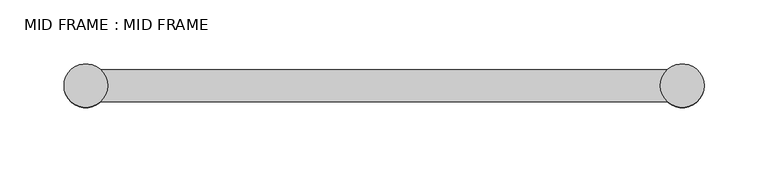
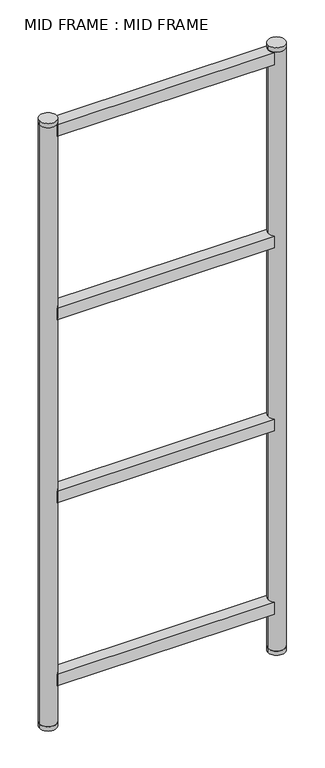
"""IFC4 building model written with IfcOpenShell, lengths in millimetres: furniture geometry, MID FRAME : MID FRAME."""

from ifc_helpers import new_model, si_unit, point, frame, frame_2d, origin, origin_with_axes, place, context, project, spatial, polyline, circle_curve, trimmed, segment, composite_curve, outline, extrude, source, transform, mapped, element, save


def mid_frame_mid_frame_c718d002(model_context):
    return source(origin(), model_context, "Body", "SweptSolid", [
        extrude(outline(composite_curve([segment(trimmed(circle_curve(frame_2d((233.0, 0.0)), 17.0), [point((221.4782814, 12.5))], [point((221.4782814, -12.5))], True, "CARTESIAN"), True, "CONTINUOUS"), segment(polyline([(221.4782814, -12.5), (-221.4782814, -12.5)]), True, "CONTINUOUS"), segment(trimmed(circle_curve(frame_2d((-233.0, 0.0)), 17.0), [point((-221.4782814, -12.5))], [point((-221.4782814, 12.5))], True, "CARTESIAN"), True, "CONTINUOUS"), segment(polyline([(-221.4782814, 12.5), (221.4782814, 12.5)]), True, "CONTINUOUS")], self_intersect=False)), frame((0.0, 0.0, 1274.0), z_axis=(0.0, 0.0, 1.0), x_axis=(1.0, 0.0, 0.0)), (0.0, 0.0, 1.0), 25.0),
        extrude(outline(composite_curve([segment(trimmed(circle_curve(frame_2d((233.0, 0.0)), 17.0), [point((221.4782814, 12.5))], [point((221.4782814, -12.5))], True, "CARTESIAN"), True, "CONTINUOUS"), segment(polyline([(221.4782814, -12.5), (-221.4782814, -12.5)]), True, "CONTINUOUS"), segment(trimmed(circle_curve(frame_2d((-233.0, 0.0)), 17.0), [point((-221.4782814, -12.5))], [point((-221.4782814, 12.5))], True, "CARTESIAN"), True, "CONTINUOUS"), segment(polyline([(-221.4782814, 12.5), (221.4782814, 12.5)]), True, "CONTINUOUS")], self_intersect=False)), frame((0.0, 0.0, 879.0), z_axis=(0.0, 0.0, 1.0), x_axis=(1.0, 0.0, 0.0)), (0.0, 0.0, 1.0), 25.0),
        extrude(outline(composite_curve([segment(trimmed(circle_curve(frame_2d((233.0, 0.0)), 17.0), [point((221.4782814, 12.5))], [point((221.4782814, -12.5))], True, "CARTESIAN"), True, "CONTINUOUS"), segment(polyline([(221.4782814, -12.5), (-221.4782814, -12.5)]), True, "CONTINUOUS"), segment(trimmed(circle_curve(frame_2d((-233.0, 0.0)), 17.0), [point((-221.4782814, -12.5))], [point((-221.4782814, 12.5))], True, "CARTESIAN"), True, "CONTINUOUS"), segment(polyline([(-221.4782814, 12.5), (221.4782814, 12.5)]), True, "CONTINUOUS")], self_intersect=False)), frame((0.0, 0.0, 484.0), z_axis=(0.0, 0.0, 1.0), x_axis=(1.0, 0.0, 0.0)), (0.0, 0.0, 1.0), 25.0),
        extrude(outline(composite_curve([segment(trimmed(circle_curve(frame_2d((233.0, 0.0)), 17.0), [point((221.4782814, 12.5))], [point((221.4782814, -12.5))], True, "CARTESIAN"), True, "CONTINUOUS"), segment(polyline([(221.4782814, -12.5), (-221.4782814, -12.5)]), True, "CONTINUOUS"), segment(trimmed(circle_curve(frame_2d((-233.0, 0.0)), 17.0), [point((-221.4782814, -12.5))], [point((-221.4782814, 12.5))], True, "CARTESIAN"), True, "CONTINUOUS"), segment(polyline([(-221.4782814, 12.5), (221.4782814, 12.5)]), True, "CONTINUOUS")], self_intersect=False)), frame((0.0, 0.0, 89.0), z_axis=(0.0, 0.0, 1.0), x_axis=(1.0, 0.0, 0.0)), (0.0, 0.0, 1.0), 25.0),
        extrude(outline(composite_curve([segment(trimmed(circle_curve(frame_2d((-233.0, 0.0)), 17.0), [point((-216.0, 0.0))], [point((-250.0, 0.0))], False, "CARTESIAN"), True, "CONTINUOUS"), segment(trimmed(circle_curve(frame_2d((-233.0, 0.0)), 17.0), [point((-250.0, 0.0))], [point((-216.0, 0.0))], False, "CARTESIAN"), True, "CONTINUOUS")], self_intersect=False)), frame((0.0, 0.0, 1301.0), z_axis=(0.0, 0.0, 1.0), x_axis=(1.0, 0.0, 0.0)), (0.0, 0.0, 1.0), 9.0),
        extrude(outline(composite_curve([segment(trimmed(circle_curve(frame_2d((-233.0, 0.0)), 17.0), [point((-216.0, 0.0))], [point((-250.0, 0.0))], False, "CARTESIAN"), True, "CONTINUOUS"), segment(trimmed(circle_curve(frame_2d((-233.0, 0.0)), 17.0), [point((-250.0, 0.0))], [point((-216.0, 0.0))], False, "CARTESIAN"), True, "CONTINUOUS")], self_intersect=False)), origin_with_axes(), (0.0, 0.0, 1.0), 9.0),
        extrude(outline(composite_curve([segment(trimmed(circle_curve(frame_2d((-233.0, 0.0)), 17.0), [point((-216.0, 0.0))], [point((-250.0, 0.0))], False, "CARTESIAN"), True, "CONTINUOUS"), segment(trimmed(circle_curve(frame_2d((-233.0, 0.0)), 17.0), [point((-250.0, 0.0))], [point((-216.0, 0.0))], False, "CARTESIAN"), True, "CONTINUOUS")], self_intersect=False)), frame((0.0, 0.0, 9.0), z_axis=(0.0, 0.0, 1.0), x_axis=(1.0, 0.0, 0.0)), (0.0, 0.0, 1.0), 1292.0),
        extrude(outline(composite_curve([segment(trimmed(circle_curve(frame_2d((233.0, 0.0)), 17.0), [point((216.0, 0.0))], [point((250.0, 0.0))], False, "CARTESIAN"), True, "CONTINUOUS"), segment(trimmed(circle_curve(frame_2d((233.0, 0.0)), 17.0), [point((250.0, 0.0))], [point((216.0, 0.0))], False, "CARTESIAN"), True, "CONTINUOUS")], self_intersect=False)), frame((0.0, 0.0, 1301.0), z_axis=(0.0, 0.0, 1.0), x_axis=(1.0, 0.0, 0.0)), (0.0, 0.0, 1.0), 9.0),
        extrude(outline(composite_curve([segment(trimmed(circle_curve(frame_2d((233.0, 0.0)), 17.0), [point((216.0, 0.0))], [point((250.0, 0.0))], False, "CARTESIAN"), True, "CONTINUOUS"), segment(trimmed(circle_curve(frame_2d((233.0, 0.0)), 17.0), [point((250.0, 0.0))], [point((216.0, 0.0))], False, "CARTESIAN"), True, "CONTINUOUS")], self_intersect=False)), origin_with_axes(), (0.0, 0.0, 1.0), 9.0),
        extrude(outline(composite_curve([segment(trimmed(circle_curve(frame_2d((233.0, 0.0)), 17.0), [point((216.0, 0.0))], [point((250.0, 0.0))], False, "CARTESIAN"), True, "CONTINUOUS"), segment(trimmed(circle_curve(frame_2d((233.0, 0.0)), 17.0), [point((250.0, 0.0))], [point((216.0, 0.0))], False, "CARTESIAN"), True, "CONTINUOUS")], self_intersect=False)), frame((0.0, 0.0, 9.0), z_axis=(0.0, 0.0, 1.0), x_axis=(1.0, 0.0, 0.0)), (0.0, 0.0, 1.0), 1292.0),
    ])


if __name__ == "__main__":
    model = new_model("IFC4")
    model_context = context("Model", 3, world=origin())
    ifc_project = project(units=[si_unit("LENGTHUNIT", "METRE", prefix="MILLI")], contexts=[model_context])
    site = spatial("IfcSite", under=ifc_project)
    building = spatial("IfcBuilding", under=site)
    placement = place(None, origin())
    mid_frame_mid_frame_shape = mid_frame_mid_frame_c718d002(model_context)
    element("IfcFurniture", 1, ObjectType="MID FRAME : MID FRAME", at=placement, inside=building, context=model_context, shape_type="MappedRepresentation", body=[
        mapped(mid_frame_mid_frame_shape, transform((0.0, 0.0, 0.0), x_axis=(1.0, 0.0, 0.0), y_axis=(0.0, 1.0, 0.0), z_axis=(0.0, 0.0, 1.0))),
    ])
    save(model, "model.ifc")
